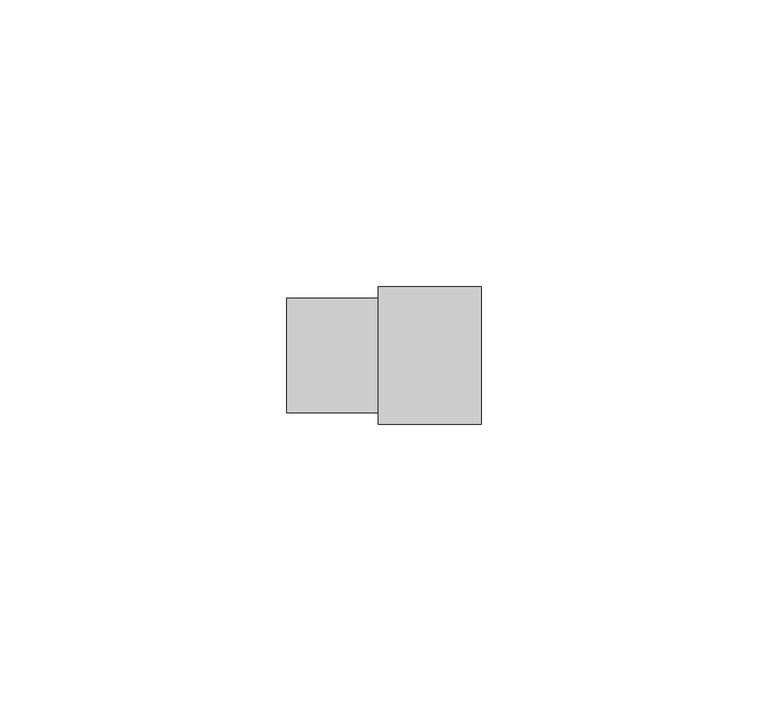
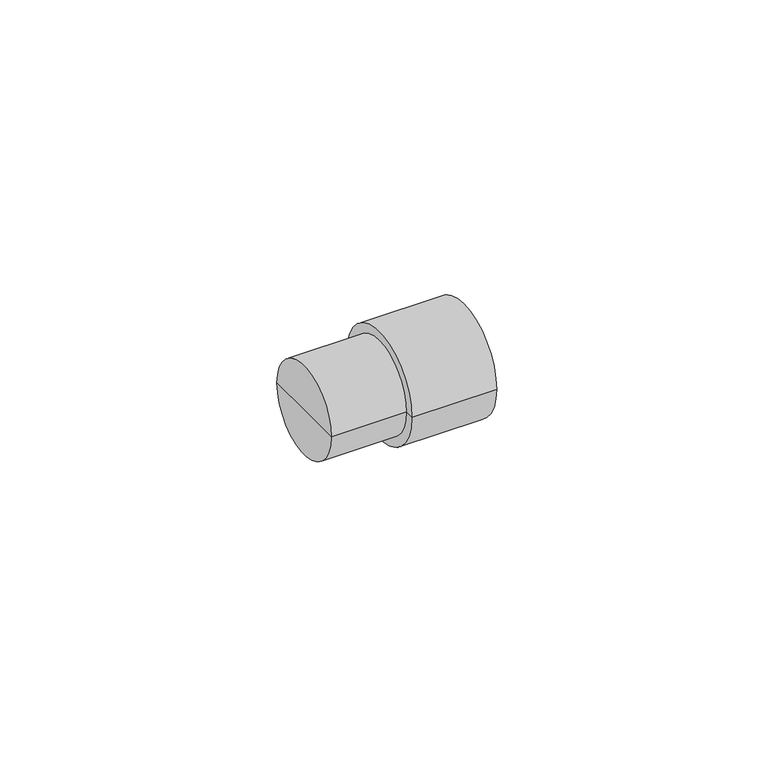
"""IFC4 building model written with IfcOpenShell, lengths in millimetres: pipe fitting geometry, KAN-therm PP redukcja : KAN-therm PP redukcja."""

from ifc_helpers import new_model, si_unit, frame, origin, place, context, project, spatial, circle_curve, source, transform, mapped, element, save
from ifc_brep_helpers import plane_surface, cylinder_surface, advanced_brep


def pipe_fitting_8554a55d(model_context):
    return source(origin(), model_context, "Body", "AdvancedBrep", [
        advanced_brep(
        [(17.0, 0.0, 0.0), (17.0, -12.0, 0.0), (17.0, 12.0, 0.0), (-17.0, 10.0, 0.0), (-17.0, -10.0, 0.0), (-17.0, 0.0, 0.0), (-1.0, 10.0, 0.0), (-1.0, -10.0, 0.0), (-1.0, 12.0, 0.0), (-1.0, -12.0, 0.0)],
        [
            (0, 1),
            (1, 2, circle_curve(frame((17.0, 0.0, 0.0), z_axis=(1.0, 0.0, 0.0), x_axis=(0.0, -1.0, 0.0)), 12.0)),
            (2, 0),
            (2, 1, circle_curve(frame((17.0, 0.0, 0.0), z_axis=(1.0, 0.0, 0.0), x_axis=(0.0, -1.0, 0.0)), 12.0)),
            (3, 4, circle_curve(frame((-17.0, 0.0, 0.0), z_axis=(-1.0, 0.0, 0.0), x_axis=(0.0, -1.0, 0.0)), 10.0)),
            (4, 5),
            (5, 3),
            (4, 3, circle_curve(frame((-17.0, 0.0, 0.0), z_axis=(-1.0, 0.0, 0.0), x_axis=(0.0, -1.0, 0.0)), 10.0)),
            (6, 7, circle_curve(frame((-1.0, 0.0, 0.0), z_axis=(-1.0, 0.0, 0.0), x_axis=(0.0, -1.0, 0.0)), 10.0)),
            (7, 4),
            (3, 6),
            (7, 6, circle_curve(frame((-1.0, 0.0, 0.0), z_axis=(-1.0, 0.0, 0.0), x_axis=(0.0, -1.0, 0.0)), 10.0)),
            (8, 9, circle_curve(frame((-1.0, 0.0, 0.0), z_axis=(-1.0, 0.0, 0.0), x_axis=(0.0, -1.0, 0.0)), 12.0)),
            (9, 7),
            (6, 8),
            (9, 8, circle_curve(frame((-1.0, 0.0, 0.0), z_axis=(-1.0, 0.0, 0.0), x_axis=(0.0, -1.0, 0.0)), 12.0)),
            (1, 9),
            (8, 2),
        ],
        [
            plane_surface(frame((17.0, 0.0, 0.0), z_axis=(1.0, 0.0, 0.0), x_axis=(0.0, -1.0, 0.0))),
            plane_surface(frame((-17.0, 0.0, 0.0), z_axis=(-1.0, 0.0, 0.0), x_axis=(0.0, -1.0, 0.0))),
            cylinder_surface(frame((1989.5, 0.0, 0.0), z_axis=(1.0, 0.0, 0.0), x_axis=(0.0, -1.0, 0.0)), 10.0),
            plane_surface(frame((-1.0, 0.0, 0.0), z_axis=(-1.0, 0.0, 0.0), x_axis=(0.0, -1.0, 0.0))),
            cylinder_surface(frame((1989.5, 0.0, 0.0), z_axis=(1.0, 0.0, 0.0), x_axis=(0.0, -1.0, 0.0)), 12.0),
        ],
        [
            (0, [[1, 2, 3]]),
            (0, [[-3, 4, -1]]),
            (1, [[5, 6, 7]]),
            (1, [[8, -7, -6]]),
            (2, [[9, 10, -5, 11]]),
            (2, [[12, -11, -8, -10]]),
            (3, [[13, 14, -9, 15]]),
            (3, [[16, -15, -12, -14]]),
            (4, [[-2, 17, -13, 18]]),
            (4, [[-4, -18, -16, -17]]),
        ],
    ),
    ])


if __name__ == "__main__":
    model = new_model("IFC4")
    model_context = context("Model", 3, world=origin())
    ifc_project = project(units=[si_unit("LENGTHUNIT", "METRE", prefix="MILLI")], contexts=[model_context])
    site = spatial("IfcSite", under=ifc_project)
    building = spatial("IfcBuilding", under=site)
    placement = place(None, origin())
    pipe_fitting_shape = pipe_fitting_8554a55d(model_context)
    element("IfcPipeFitting", 1, ObjectType="KAN-therm PP redukcja : KAN-therm PP redukcja", at=placement, inside=building, context=model_context, shape_type="MappedRepresentation", body=[
        mapped(pipe_fitting_shape, transform((0.0, 0.0, 0.0), x_axis=(1.0, 0.0, 0.0), y_axis=(0.0, 1.0, 0.0), z_axis=(0.0, 0.0, 1.0))),
    ])
    save(model, "model.ifc")
